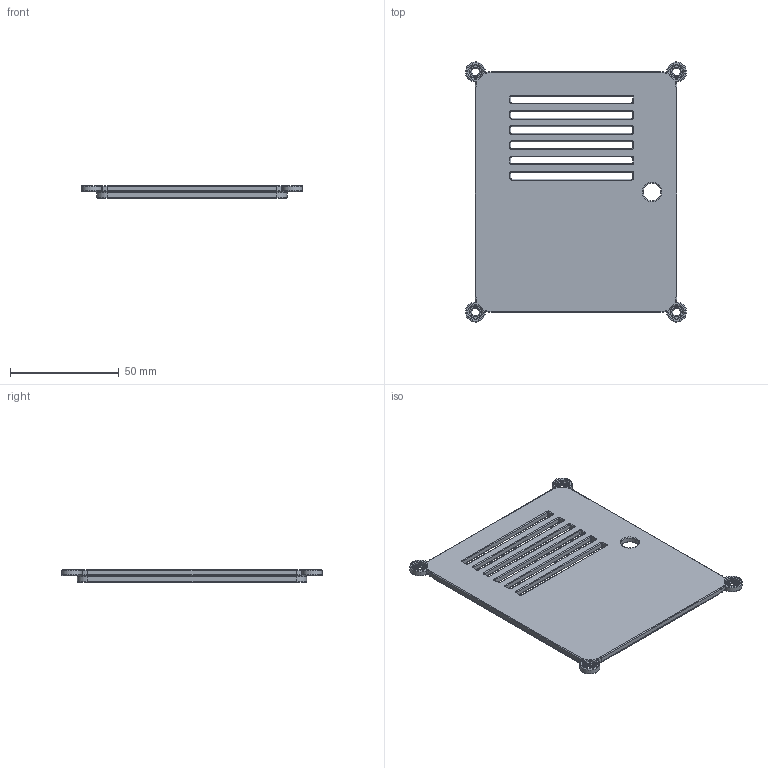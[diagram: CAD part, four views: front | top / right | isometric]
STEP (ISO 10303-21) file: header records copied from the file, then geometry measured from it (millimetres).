
FILE_DESCRIPTION(('Open CASCADE Model'),'2;1');
FILE_NAME('Open CASCADE Shape Model','2026-11-19T06:42:11',('Author'),( 'Open CASCADE'),'Open CASCADE STEP processor 8.0','Open CASCADE 8.0' ,'Unknown');
FILE_SCHEMA(('AUTOMOTIVE_DESIGN { 1 0 10303 214 1 1 1 1 }'));
Length unit declared in the file: millimetre
Products named in the file (1): Open CASCADE STEP translator 8.0 42
Bounding box: 101.66 x 119.66 x 5.8 mm (x, y, z)
Volume: 27841.7 mm3; surface area: 23646.8 mm2
Topology: 1 solids, 1 shells, 299 faces, 679 edges, 388 vertices
Faces by surface type: cylinder 125, torus 122, plane 44, bspline 8
Full cylindrical faces by diameter (mm): 3.55 x4, 6.35 x4, 8.15 x1
Entity records: 17392 total; most frequent: CARTESIAN_POINT 3881, DIRECTION 2583, ORIENTED_EDGE 1358, PCURVE 1358, DEFINITIONAL_REPRESENTATION 1358, LINE 1041, VECTOR 1041, AXIS2_PLACEMENT_3D 730
